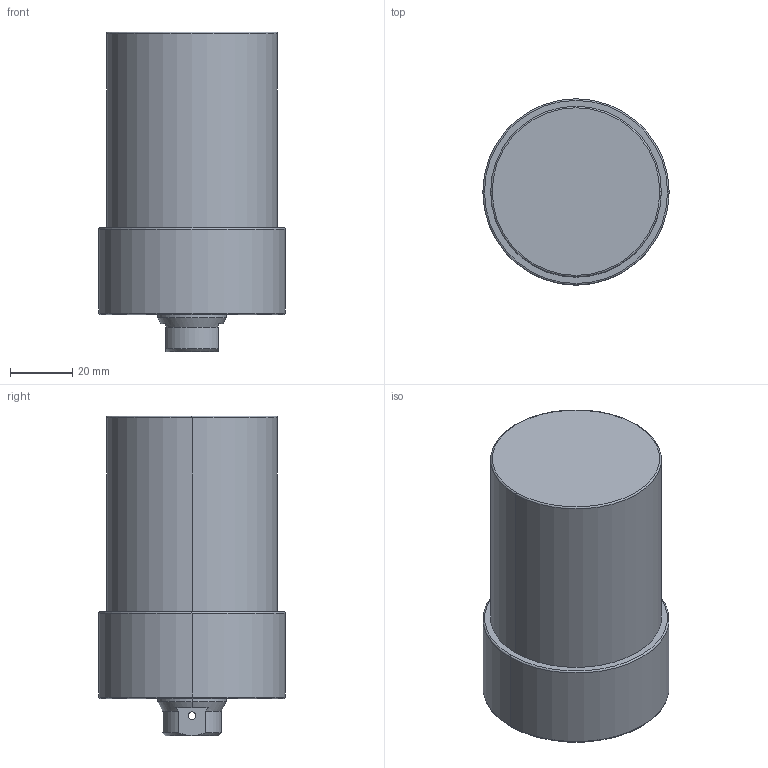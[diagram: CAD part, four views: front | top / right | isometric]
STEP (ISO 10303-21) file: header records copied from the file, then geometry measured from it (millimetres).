
FILE_DESCRIPTION (( 'STEP AP203' ), '1' );
FILE_NAME ('CLLU055-CB-050.STEP', '2017-05-12T11:22:54', ( '' ), ( '' ), 'SwSTEP 2.0', 'SolidWorks 2015', '' );
FILE_SCHEMA (( 'CONFIG_CONTROL_DESIGN' ));
Length unit declared in the file: millimetre
Products named in the file (1): CLLU055-CB-050
Bounding box: 60 x 60 x 103 mm (x, y, z)
Volume: 229136.1 mm3; surface area: 24256.7 mm2
Topology: 1 solids, 1 shells, 66 faces, 152 edges, 85 vertices
Faces by surface type: cylinder 26, cone 24, plane 10, torus 6
Entity records: 1971 total; most frequent: CARTESIAN_POINT 414, DIRECTION 340, ORIENTED_EDGE 284, AXIS2_PLACEMENT_3D 143, EDGE_CURVE 142, VERTEX_POINT 85, EDGE_LOOP 77, CIRCLE 76
